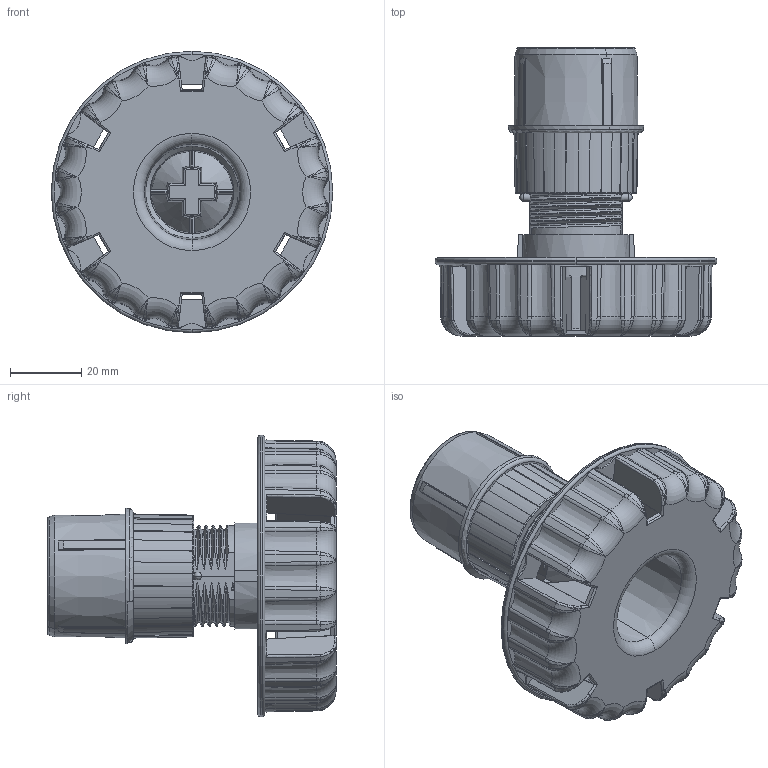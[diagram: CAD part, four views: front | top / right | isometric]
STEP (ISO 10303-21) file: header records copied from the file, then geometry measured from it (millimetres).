
FILE_DESCRIPTION((''),'2;1');
FILE_NAME('69_4072_ASM','2014-10-29T',('hha'),(''),'PRO/ENGINEER BY PARAMETRIC TECHNOLOGY CORPORATION, 2012360','PRO/ENGINEER BY PARAMETRIC TECHNOLOGY CORPORATION, 2012360','');
FILE_SCHEMA(('CONFIG_CONTROL_DESIGN'));
Length unit declared in the file: millimetre
Products named in the file (3): 69_0015; 69_0751; 69_4072_ASM
Assembly tree (2 placements, depth 2):
  69_4072_ASM
    69_0015
    69_0751
Bounding box: 79 x 80.89 x 79 mm (x, y, z)
Volume: 43843.7 mm3; surface area: 50682.5 mm2
Topology: 2 solids, 2 shells, 1107 faces, 3011 edges, 1901 vertices
Faces by surface type: bspline 328, plane 210, cone 189, cylinder 187, torus 165, sphere 28
Entity records: 88183 total; most frequent: CARTESIAN_POINT 64047, ORIENTED_EDGE 6014, DIRECTION 3653, EDGE_CURVE 3007, VERTEX_POINT 1901, B_SPLINE_CURVE_WITH_KNOTS 1579, AXIS2_PLACEMENT_3D 1441, EDGE_LOOP 1118
